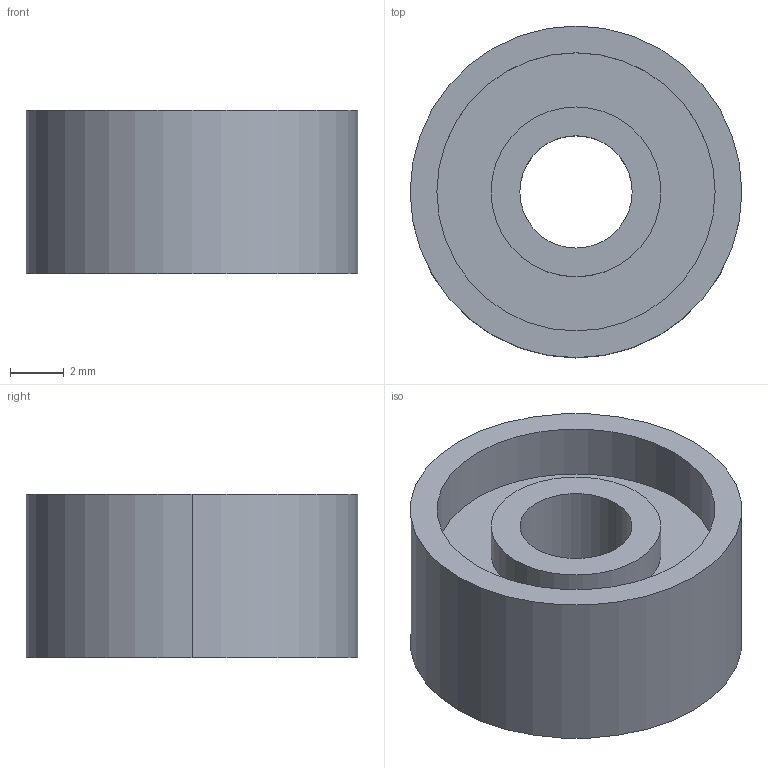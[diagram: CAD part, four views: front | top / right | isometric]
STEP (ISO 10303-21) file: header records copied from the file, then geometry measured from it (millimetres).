
FILE_DESCRIPTION (( 'STEP AP214' ), '1' );
FILE_NAME ('228-2500-154.STEP', '2021-02-18T19:54:28', ( '' ), ( '' ), 'SwSTEP 2.0', 'SolidWorks 2019', '' );
FILE_SCHEMA (( 'AUTOMOTIVE_DESIGN' ));
Length unit declared in the file: millimetre
Products named in the file (1): 228-2500-154
Bounding box: 12.4 x 12.4 x 6.1 mm (x, y, z)
Volume: 406.5 mm3; surface area: 697 mm2
Topology: 1 solids, 1 shells, 18 faces, 36 edges, 24 vertices
Faces by surface type: cylinder 12, plane 6
Entity records: 522 total; most frequent: DIRECTION 98, CARTESIAN_POINT 79, ORIENTED_EDGE 72, AXIS2_PLACEMENT_3D 43, EDGE_CURVE 36, EDGE_LOOP 24, VERTEX_POINT 24, CIRCLE 24
